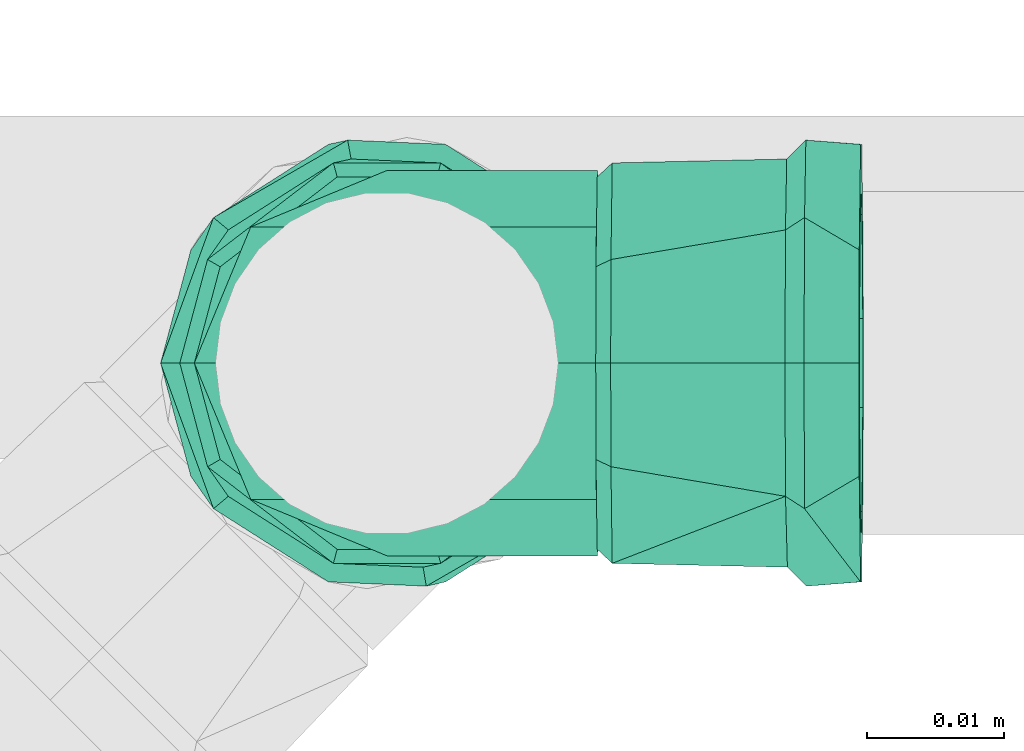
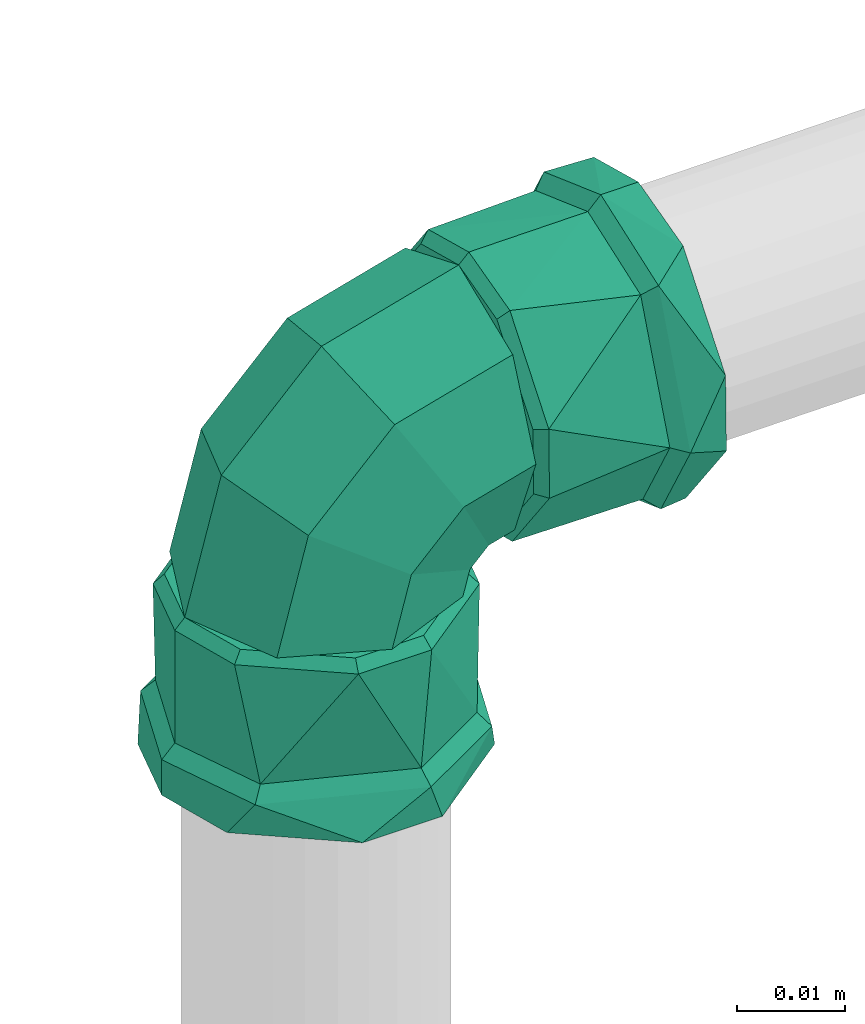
# One storey, part 350 of 589: 1 flow fitting.
"""IFC2X3 building model written with IfcOpenShell, lengths in millimetres."""

import ifcopenshell
import ifcopenshell.guid

model = None  # the IFC model being written
_history = None  # IfcOwnerHistory: only IFC2X3 demands one
_inside = {}  # id of a spatial element -> (the spatial element, [elements in it])
_under = {}  # id of a project, library or spatial element -> (it, [spatial elements below it])
_declared = {}  # id of a project -> (the project, [libraries it declares])
_typed = {}  # id of a type object -> (the type object, [elements of that type])
_made_of = {}  # id of a material, layer set ... -> (it, [elements and type objects made of it])


def new_model(schema):
    """Start an empty IFC model of exactly this schema.

    Asked for "IFC4X3", IfcOpenShell would pick the latest addendum, in which some entities
    have other attributes; the version numbers below select the first issue.
    IFC2X3 requires an IfcOwnerHistory on every rooted entity: one is made here for all.
    """
    global model, _history
    if schema == "IFC4X3":
        model = ifcopenshell.file(schema_version=(4, 3, 0, 0))
    else:
        model = ifcopenshell.file(schema=schema)
    _inside.clear()
    _under.clear()
    _declared.clear()
    _typed.clear()
    _made_of.clear()
    _history = None
    if model.schema == "IFC2X3":
        org = make("IfcOrganization", Name="unknown")
        user = make(
            "IfcPersonAndOrganization",
            ThePerson=make("IfcPerson", FamilyName="unknown"),
            TheOrganization=org,
        )
        app = make(
            "IfcApplication",
            ApplicationDeveloper=org,
            Version="unknown",
            ApplicationFullName="unknown",
            ApplicationIdentifier="unknown",
        )
        _history = make(
            "IfcOwnerHistory",
            OwningUser=user,
            OwningApplication=app,
            ChangeAction="ADDED",
            CreationDate=0,
        )
    return model


def make(cls, **values):
    """One entity of the class cls with the attributes given. An attribute that is None is left unset."""
    return model.create_entity(
        cls, **{name: value for name, value in values.items() if value is not None}
    )


def entity(cls, *values):
    """Any entity or typed value of the class cls, its attributes in the order of the schema. None: left unset."""
    e = model.create_entity(cls)
    for i, value in enumerate(values):
        if value is not None:
            e[i] = value
    return e


def rooted(cls, **values):
    """An entity with a GlobalId (a new one), such as an element, a storey or a relation."""
    return make(cls, GlobalId=ifcopenshell.guid.new(), OwnerHistory=_history, **values)


def si_unit(unit_type, name, prefix=None):
    """IfcSIUnit, for example si_unit("LENGTHUNIT", "METRE", prefix="MILLI")."""
    return make("IfcSIUnit", UnitType=unit_type, Prefix=prefix, Name=name)


def converted_unit(unit_type, name, factor, base, dimensions=None, offset=None):
    """IfcConversionBasedUnit, such as the inch: factor (a typed value) times the base unit."""
    return make(
        "IfcConversionBasedUnit"
        if offset is None
        else "IfcConversionBasedUnitWithOffset",
        ConversionOffset=offset,
        Dimensions=None
        if dimensions is None
        else entity("IfcDimensionalExponents", *dimensions),
        UnitType=unit_type,
        Name=name,
        ConversionFactor=make(
            "IfcMeasureWithUnit", ValueComponent=factor, UnitComponent=base
        ),
    )


def derived_unit(unit_type, elements):
    """IfcDerivedUnit: a product of units, each with its exponent."""
    return make(
        "IfcDerivedUnit",
        Elements=[
            make("IfcDerivedUnitElement", Unit=unit, Exponent=power)
            for unit, power in elements
        ],
        UnitType=unit_type,
    )


def assignment(units):
    """IfcUnitAssignment: the units of a project."""
    return None if units is None else make("IfcUnitAssignment", Units=units)


def point(xyz):
    """IfcCartesianPoint."""
    return None if xyz is None else make("IfcCartesianPoint", Coordinates=xyz)


def direction(xyz):
    """IfcDirection."""
    return None if xyz is None else make("IfcDirection", DirectionRatios=xyz)


def frame(location, z_axis=None, x_axis=None):
    """IfcAxis2Placement3D, a coordinate frame: its origin and axes. An axis left out is left unset."""
    return make(
        "IfcAxis2Placement3D",
        Location=point(location),
        Axis=direction(z_axis),
        RefDirection=direction(x_axis),
    )


def origin():
    """The frame at (0, 0, 0) with its axes left unset."""
    return frame((0.0, 0.0, 0.0))


def place(relative_to, where):
    """IfcLocalPlacement: puts the frame where relative to a parent placement (None: the world)."""
    return make(
        "IfcLocalPlacement", PlacementRelTo=relative_to, RelativePlacement=where
    )


def context(
    kind, dimensions, precision=None, world=None, true_north=None, identifier=None
):
    """IfcGeometricRepresentationContext, for example the 3D "Model" context."""
    return make(
        "IfcGeometricRepresentationContext",
        ContextIdentifier=identifier,
        ContextType=kind,
        CoordinateSpaceDimension=dimensions,
        Precision=precision,
        WorldCoordinateSystem=world,
        TrueNorth=true_north,
    )


def subcontext(parent, identifier, kind, view, scale=None):
    """IfcGeometricRepresentationSubContext, for example "Body" below "Model"."""
    return make(
        "IfcGeometricRepresentationSubContext",
        ContextIdentifier=identifier,
        ContextType=kind,
        ParentContext=parent,
        TargetScale=scale,
        TargetView=view,
    )


def project(units=None, contexts=None):
    """IfcProject with its units and contexts."""
    return rooted(
        "IfcProject",
        Name="project",
        RepresentationContexts=contexts,
        UnitsInContext=assignment(units),
    )


def spatial(cls, under=None, at=None, **own):
    """A site, building, storey or space (cls), placed at a placement, below another one or the project."""
    s = rooted(cls, ObjectPlacement=at, **own)
    if under is not None:
        _under.setdefault(under.id(), (under, []))[1].append(s)
    return s


def faces_of(points, faces, orient=None, outer=None):
    """IfcFace entities. A face is a list of loops; a loop is a list of indices into points, from 0.

    orient and outer hold one flag for each loop. By default every Orientation is true, the
    first loop of a face is its IfcFaceOuterBound and the others are IfcFaceBound.
    """
    made = []
    for i, loops in enumerate(faces):
        bounds = []
        for j, loop in enumerate(loops):
            is_outer = j == 0 if outer is None else outer[i][j]
            bounds.append(
                make(
                    "IfcFaceOuterBound" if is_outer else "IfcFaceBound",
                    Bound=make("IfcPolyLoop", Polygon=[points[k] for k in loop]),
                    Orientation=True if orient is None else orient[i][j],
                )
            )
        made.append(make("IfcFace", Bounds=bounds))
    return made


def faceted_brep(points, faces, orient=None, outer=None, voids=None):
    """IfcFacetedBrep: a solid bounded by flat faces; with voids (closed shells), ...WithVoids."""
    shared = [point(p) for p in points]
    hull = make("IfcClosedShell", CfsFaces=faces_of(shared, faces, orient, outer))
    if voids is None:
        return make("IfcFacetedBrep", Outer=hull)
    return make(
        "IfcFacetedBrepWithVoids",
        Outer=hull,
        Voids=[
            make(cls, CfsFaces=faces_of(shared, fs, o, b)) for cls, fs, o, b in voids
        ],
    )


def shape(context_of_items, identifier, shape_type, items):
    """IfcShapeRepresentation: the items that make up one representation, for example the "Body"."""
    return make(
        "IfcShapeRepresentation",
        ContextOfItems=context_of_items,
        RepresentationIdentifier=identifier,
        RepresentationType=shape_type,
        Items=items,
    )


def source(mapping_origin, context_of_items, identifier, shape_type, items):
    """IfcRepresentationMap: a shape defined once, which mapped items show again and again."""
    return make(
        "IfcRepresentationMap",
        MappingOrigin=mapping_origin,
        MappedRepresentation=shape(context_of_items, identifier, shape_type, items),
    )


def transform(
    local_origin,
    x_axis=None,
    y_axis=None,
    z_axis=None,
    scale=None,
    scale2=None,
    scale3=None,
    uniform=True,
):
    """IfcCartesianTransformationOperator3D, or its non-uniform kind. x_axis, y_axis, z_axis: its Axis1, 2, 3."""
    if uniform:
        return make(
            "IfcCartesianTransformationOperator3D",
            Axis1=direction(x_axis),
            Axis2=direction(y_axis),
            LocalOrigin=point(local_origin),
            Scale=scale,
            Axis3=direction(z_axis),
        )
    return make(
        "IfcCartesianTransformationOperator3DnonUniform",
        Axis1=direction(x_axis),
        Axis2=direction(y_axis),
        LocalOrigin=point(local_origin),
        Scale=scale,
        Axis3=direction(z_axis),
        Scale2=scale2,
        Scale3=scale3,
    )


def mapped(mapping_source, mapping_target):
    """IfcMappedItem: shows the shape of a source again, moved by a transform."""
    return make(
        "IfcMappedItem", MappingSource=mapping_source, MappingTarget=mapping_target
    )


def material(Name=None, Category=None):
    """IfcMaterial."""
    return make("IfcMaterial", Name=Name, Category=Category)


def made_of(thing, what):
    """Note that an element or type object is made of a material, layer set ...; save() writes the relation."""
    if what is not None:
        _made_of.setdefault(what.id(), (what, []))[1].append(thing)
    return thing


def type_object(cls, material=None, **own):
    """A type object (cls), such as IfcWallType, which elements share."""
    return made_of(rooted(cls, **own), material)


def type_shapes(of_type, sources):
    """Give a type object the sources (RepresentationMaps) that its elements show as mapped items."""
    of_type.RepresentationMaps = sources


def element(
    cls,
    number,
    at=None,
    inside=None,
    cuts=None,
    type_object=None,
    material=None,
    context=None,
    identifier="Body",
    shape_type=None,
    held_by="IfcProductDefinitionShape",
    body=None,
    shapes=None,
    **own,
):
    """One element of the class cls, such as IfcWall. Its Tag is "e" and its number.

    at: its placement. inside: the storey or other place that contains it. cuts: it is an
    opening in that element (IfcRelVoidsElement). A single representation is given by context,
    identifier, shape_type and body (its items); several are given by shapes. held_by: the class
    of the entity that holds the representations. save() writes the other relations.
    """
    e = rooted(cls, Tag="e%d" % number, ObjectPlacement=at, **own)
    if body is not None:
        shapes = [shape(context, identifier, shape_type, body)]
    if shapes is not None:
        e.Representation = make(held_by, Representations=shapes)
    if inside is not None:
        _inside.setdefault(inside.id(), (inside, []))[1].append(e)
    if cuts is not None:
        rooted(
            "IfcRelVoidsElement", RelatingBuildingElement=cuts, RelatedOpeningElement=e
        )
    if type_object is not None:
        _typed.setdefault(type_object.id(), (type_object, []))[1].append(e)
    return made_of(e, material)


def aggregate(whole, parts):
    """IfcRelAggregates: a whole, such as a stair, and the parts it consists of."""
    return rooted("IfcRelAggregates", RelatingObject=whole, RelatedObjects=parts)


def save(model, path):
    """Write the relations noted so far, then the file.

    IfcRelAggregates (storeys below a building ...), IfcRelContainedInSpatialStructure (elements
    in a storey), IfcRelDefinesByType, IfcRelAssociatesMaterial and IfcRelDeclares: one each for
    every whole, place, type object, material and project.
    """
    for whole, parts in _under.values():
        aggregate(whole, parts)
    for where, things in _inside.values():
        rooted(
            "IfcRelContainedInSpatialStructure",
            RelatedElements=things,
            RelatingStructure=where,
        )
    for kind, things in _typed.values():
        rooted("IfcRelDefinesByType", RelatedObjects=things, RelatingType=kind)
    for what, things in _made_of.values():
        rooted("IfcRelAssociatesMaterial", RelatedObjects=things, RelatingMaterial=what)
    for by, libraries in _declared.values():
        rooted("IfcRelDeclares", RelatingContext=by, RelatedDefinitions=libraries)
    model.write(path)


model = new_model("IFC2X3")

# Units and contexts
model_context = context("Model", 3, precision=0.01, world=origin(), true_north=direction((6.123031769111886e-17, 1.0)))
body_context = subcontext(model_context, "Body", "Model", "MODEL_VIEW")
ifc_project = project(units=[si_unit("LENGTHUNIT", "METRE", prefix="MILLI"), si_unit("AREAUNIT", "SQUARE_METRE"), si_unit("VOLUMEUNIT", "CUBIC_METRE"), converted_unit("PLANEANGLEUNIT", "DEGREE", entity("IfcRatioMeasure", 0.017453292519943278), si_unit("PLANEANGLEUNIT", "RADIAN"), dimensions=[0, 0, 0, 0, 0, 0, 0]), si_unit("MASSUNIT", "GRAM", prefix="KILO"), derived_unit("MASSDENSITYUNIT", [(si_unit("MASSUNIT", "GRAM", prefix="KILO"), 1), (si_unit("LENGTHUNIT", "METRE"), -3)]), derived_unit("IONCONCENTRATIONUNIT", [(si_unit("MASSUNIT", "GRAM", prefix="KILO"), 1), (si_unit("LENGTHUNIT", "METRE"), -3)]), derived_unit("MOMENTOFINERTIAUNIT", [(si_unit("LENGTHUNIT", "METRE"), 4)]), si_unit("TIMEUNIT", "SECOND"), si_unit("FREQUENCYUNIT", "HERTZ"), si_unit("THERMODYNAMICTEMPERATUREUNIT", "DEGREE_CELSIUS"), derived_unit("THERMALTRANSMITTANCEUNIT", [(si_unit("MASSUNIT", "GRAM", prefix="KILO"), 1), (si_unit("THERMODYNAMICTEMPERATUREUNIT", "KELVIN"), -1), (si_unit("TIMEUNIT", "SECOND"), -3)]), derived_unit("THERMALCONDUCTANCEUNIT", [(si_unit("MASSUNIT", "GRAM", prefix="KILO"), 1), (si_unit("THERMODYNAMICTEMPERATUREUNIT", "KELVIN"), -1), (si_unit("TIMEUNIT", "SECOND"), -3), (si_unit("LENGTHUNIT", "METRE"), 1)]), derived_unit("VOLUMETRICFLOWRATEUNIT", [(si_unit("LENGTHUNIT", "METRE"), 3), (si_unit("TIMEUNIT", "SECOND"), -1)]), derived_unit("MASSFLOWRATEUNIT", [(si_unit("MASSUNIT", "GRAM", prefix="KILO"), 1), (si_unit("TIMEUNIT", "SECOND"), -1)]), derived_unit("ROTATIONALFREQUENCYUNIT", [(si_unit("TIMEUNIT", "SECOND"), -1)]), si_unit("ELECTRICCURRENTUNIT", "AMPERE"), si_unit("ELECTRICVOLTAGEUNIT", "VOLT"), si_unit("POWERUNIT", "WATT"), si_unit("FORCEUNIT", "NEWTON", prefix="KILO"), si_unit("ILLUMINANCEUNIT", "LUX"), si_unit("LUMINOUSFLUXUNIT", "LUMEN"), si_unit("LUMINOUSINTENSITYUNIT", "CANDELA"), derived_unit("USERDEFINED", [(si_unit("MASSUNIT", "GRAM", prefix="KILO"), -1), (si_unit("LENGTHUNIT", "METRE"), -2), (si_unit("TIMEUNIT", "SECOND"), 3), (si_unit("LUMINOUSFLUXUNIT", "LUMEN"), 1)]), derived_unit("USERDEFINED", [(si_unit("MASSUNIT", "GRAM", prefix="KILO"), 1), (si_unit("TIMEUNIT", "SECOND"), -3), (si_unit("LENGTHUNIT", "METRE"), 3), (si_unit("ELECTRICCURRENTUNIT", "AMPERE"), -2)]), derived_unit("SOUNDPOWERUNIT", [(si_unit("MASSUNIT", "GRAM", prefix="KILO"), 1), (si_unit("TIMEUNIT", "SECOND"), -3), (si_unit("LENGTHUNIT", "METRE"), 2)]), derived_unit("SOUNDPRESSUREUNIT", [(si_unit("MASSUNIT", "GRAM", prefix="KILO"), 1), (si_unit("LENGTHUNIT", "METRE"), -1), (si_unit("TIMEUNIT", "SECOND"), -2)]), derived_unit("LINEARVELOCITYUNIT", [(si_unit("LENGTHUNIT", "METRE"), 1), (si_unit("TIMEUNIT", "SECOND"), -1)]), si_unit("PRESSUREUNIT", "PASCAL"), derived_unit("USERDEFINED", [(si_unit("MASSUNIT", "GRAM", prefix="KILO"), 1), (si_unit("LENGTHUNIT", "METRE"), -2), (si_unit("TIMEUNIT", "SECOND"), -2)]), derived_unit("LINEARFORCEUNIT", [(si_unit("MASSUNIT", "GRAM", prefix="KILO"), 1), (si_unit("TIMEUNIT", "SECOND"), -2)]), derived_unit("PLANARFORCEUNIT", [(si_unit("MASSUNIT", "GRAM", prefix="KILO"), 1), (si_unit("LENGTHUNIT", "METRE"), -1), (si_unit("TIMEUNIT", "SECOND"), -2)]), derived_unit("SPECIFICHEATCAPACITYUNIT", [(si_unit("THERMODYNAMICTEMPERATUREUNIT", "KELVIN"), -1), (si_unit("LENGTHUNIT", "METRE"), 2), (si_unit("TIMEUNIT", "SECOND"), -2)]), derived_unit("HEATINGVALUEUNIT", [(si_unit("LENGTHUNIT", "METRE"), 2), (si_unit("TIMEUNIT", "SECOND"), -2)]), derived_unit("VAPORPERMEABILITYUNIT", [(si_unit("LENGTHUNIT", "METRE"), -1), (si_unit("TIMEUNIT", "SECOND"), 1)]), derived_unit("DYNAMICVISCOSITYUNIT", [(si_unit("MASSUNIT", "GRAM", prefix="KILO"), 1), (si_unit("TIMEUNIT", "SECOND"), -1), (si_unit("LENGTHUNIT", "METRE"), -1)]), derived_unit("THERMALEXPANSIONCOEFFICIENTUNIT", [(si_unit("THERMODYNAMICTEMPERATUREUNIT", "KELVIN"), -1)]), derived_unit("MODULUSOFELASTICITYUNIT", [(si_unit("MASSUNIT", "GRAM", prefix="KILO"), 1), (si_unit("LENGTHUNIT", "METRE"), -1), (si_unit("TIMEUNIT", "SECOND"), -2)]), derived_unit("ISOTHERMALMOISTURECAPACITYUNIT", [(si_unit("LENGTHUNIT", "METRE"), 3), (si_unit("MASSUNIT", "GRAM", prefix="KILO"), -1)]), derived_unit("MOISTUREDIFFUSIVITYUNIT", [(si_unit("TIMEUNIT", "SECOND"), -1), (si_unit("LENGTHUNIT", "METRE"), 2)])], contexts=[model_context])

# Site, building, storey
site_placement = place(None, origin())
site = spatial("IfcSite", under=ifc_project, at=site_placement, Name="Default", CompositionType="ELEMENT")
building_placement = place(site_placement, origin())
building = spatial("IfcBuilding", under=site, at=building_placement, CompositionType="ELEMENT")
storey_placement = place(building_placement, frame((0.0, 0.0, 100.0)))
storey = spatial("IfcBuildingStorey", under=building, at=storey_placement, Name="TÉRREO", CompositionType="ELEMENT", Elevation=100.0)

# Flow fitting
ifc_material = material(Name="PVC Marrom")
pipe_fitting_type = type_object("IfcPipeFittingType", Name="PVC Marrom Soldável_Joelho 45°_90°_Rodrigo MEP:Joelho", PredefinedType="NOTDEFINED", material=ifc_material)
shared_shape = source(origin(), body_context, "Body", "Brep", [
    faceted_brep([(4.072421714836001, -16.405873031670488, 14.585479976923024), (-3.7435226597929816, -16.48403247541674, 14.585479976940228), (-12.911880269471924, -16.57571605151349, 7.549999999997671), (-14.934795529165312, -16.59594520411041, 0.0), (-12.91188026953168, -16.575716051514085, -7.550000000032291), (-3.7435226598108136, -16.48403247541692, -14.585479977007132), (4.07242171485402, -16.405873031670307, -14.585479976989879), (13.240779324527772, -16.314189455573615, -7.55000000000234), (15.263694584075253, -16.29396030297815, 0.0), (13.240779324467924, -16.314189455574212, 7.549999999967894), (3.7870877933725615, -15.308671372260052, 13.561598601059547), (12.31183884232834, -15.223423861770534, 7.019999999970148), (14.192748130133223, -15.204614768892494, 0.0), (12.311838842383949, -15.223423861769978, -7.02000000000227), (3.7870877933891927, -15.308671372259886, -13.561598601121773), (-3.480187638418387, -15.381344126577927, -13.561598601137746), (-12.004938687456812, -15.466591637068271, -7.020000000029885), (-13.885847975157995, -15.485400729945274, 0.0), (-12.004938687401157, -15.466591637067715, 7.0199999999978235), (-3.4801876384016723, -15.38134412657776, 13.561598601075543)], [[[0, 1, 2, 3, 4, 5, 6, 7, 8, 9]], [[10, 11, 12, 13, 14, 15, 16, 17, 18, 19]], [[13, 12, 8, 7]], [[14, 13, 7, 6]], [[6, 5, 15, 14]], [[16, 15, 5, 4]], [[17, 16, 4, 3]], [[18, 17, 3, 2]], [[19, 18, 2, 1]], [[1, 0, 10, 19]], [[11, 10, 0, 9]], [[12, 11, 9, 8]]]),
    faceted_brep([(-16.445774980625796, -3.908167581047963, 14.585479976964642), (-16.445774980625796, 3.908167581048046, 14.585479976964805), (-16.445774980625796, 13.076983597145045, 7.550000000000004), (-16.445774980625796, 15.100000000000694, 0.0), (-16.445774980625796, 13.0769835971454, -7.550000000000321), (-16.445774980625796, 3.9081675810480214, -14.585479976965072), (-16.445774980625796, -3.9081675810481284, -14.58547997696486), (-16.445774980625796, -13.076983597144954, -7.54999999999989), (-16.445774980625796, -15.099999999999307, 0.0), (-16.445774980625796, -13.076983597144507, 7.549999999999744), (-15.345774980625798, 3.633819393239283, 13.56159860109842), (-15.345774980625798, -3.6338193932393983, 13.561598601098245), (-15.345774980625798, -12.158996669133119, 7.019999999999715), (-15.345774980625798, -14.040000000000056, 0.0), (-15.345774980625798, -12.158996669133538, -7.019999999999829), (-15.345774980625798, -3.6338193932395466, -13.56159860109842), (-15.345774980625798, 3.63381939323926, -13.561598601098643), (-15.345774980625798, 12.158996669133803, -7.020000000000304), (-15.345774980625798, 14.039999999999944, 0.0), (-15.345774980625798, 12.15899666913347, 7.020000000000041)], [[[0, 1, 2, 3, 4, 5, 6, 7, 8, 9]], [[10, 11, 12, 13, 14, 15, 16, 17, 18, 19]], [[14, 13, 8, 7]], [[15, 14, 7, 6]], [[6, 5, 16, 15]], [[17, 16, 5, 4]], [[18, 17, 4, 3]], [[19, 18, 3, 2]], [[10, 19, 2, 1]], [[1, 0, 11, 10]], [[12, 11, 0, 9]], [[13, 12, 9, 8]]]),
    faceted_brep([(-34.545774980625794, 0.0, -12.5), (-34.545774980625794, 6.250000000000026, -10.825317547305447), (-34.545774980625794, 4.2705142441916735, -15.937776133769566), (-34.545774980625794, -4.270514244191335, -15.937776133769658), (-34.545774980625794, -6.250000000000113, -10.82531754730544), (-34.545774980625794, 14.289419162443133, -8.25000000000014), (-34.545774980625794, 12.074072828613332, -3.23523806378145), (-34.545774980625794, 16.5, 0.0), (-34.545774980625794, 12.074072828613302, 3.2352380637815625), (-34.545774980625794, 14.289419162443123, 8.249999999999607), (-34.545774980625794, 6.249999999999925, 10.825317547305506), (-34.545774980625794, 4.27051424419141, 15.937776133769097), (-34.545774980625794, 0.0, 12.5), (-34.545774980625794, -4.270514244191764, 15.937776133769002), (-34.545774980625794, -6.249999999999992, 10.825317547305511), (-34.545774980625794, -14.28941916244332, 8.249999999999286), (-34.545774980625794, -12.074072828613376, 3.2352380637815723), (-34.545774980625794, -16.5, 0.0), (-34.545774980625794, -12.074072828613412, -3.235238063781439), (-34.545774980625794, -14.289419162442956, -8.250000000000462), (-30.545774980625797, -16.5, 0.0), (-30.545774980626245, -12.639142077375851, 10.606700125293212), (-30.545774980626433, -4.885841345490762, 13.427814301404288), (-30.54577498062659, 2.8674593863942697, 16.24892847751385), (-30.545774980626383, 12.64180232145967, 10.603529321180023), (-30.545774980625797, 16.499999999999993, 0.0), (-30.545774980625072, 12.641802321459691, -10.603529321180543), (-30.545774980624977, 4.889209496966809, -13.426588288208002), (-30.54577498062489, -2.8633833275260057, -16.249647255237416), (-30.545774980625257, -12.639142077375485, -10.606700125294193), (-29.145774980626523, 11.56916454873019, 9.703835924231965), (-29.145774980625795, 15.099999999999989, 0.0), (-29.145774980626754, 2.624159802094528, 14.870231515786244), (-29.145774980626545, -4.471285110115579, 12.288484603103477), (-29.14577498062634, -11.566730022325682, 9.706737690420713), (-29.145774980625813, -15.099999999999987, 0.0), (-29.14577498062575, -11.566730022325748, -9.706737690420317), (-29.145774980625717, -2.620429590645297, -14.87088930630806), (-29.14577498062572, 4.4743674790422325, -12.287362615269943), (-29.145774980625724, 11.569164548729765, -9.703835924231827), (-16.445774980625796, 3.908167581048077, -14.585479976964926), (-16.445774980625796, 6.250000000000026, -10.825317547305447), (-16.445774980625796, 0.0, -12.5), (-16.445774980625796, 13.076983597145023, -7.549999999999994), (-16.445774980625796, -3.9081675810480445, -14.585479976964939), (-16.445774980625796, 12.074072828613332, -3.23523806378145), (-16.445774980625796, 15.099999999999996, 0.0), (-16.445774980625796, 12.074072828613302, 3.2352380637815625), (-16.445774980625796, 13.076983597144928, 7.550000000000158), (-16.445774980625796, 6.249999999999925, 10.825317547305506), (-16.445774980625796, 3.9081675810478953, 14.585479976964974), (-16.445774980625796, 0.0, 12.5), (-16.445774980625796, -3.9081675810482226, 14.58547997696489), (-16.445774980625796, -6.249999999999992, 10.825317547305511), (-16.445774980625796, -13.076983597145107, 7.549999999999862), (-16.445774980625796, -12.074072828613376, 3.2352380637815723), (-16.445774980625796, -15.100000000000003, 0.0), (-16.445774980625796, -12.074072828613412, -3.235238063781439), (-16.445774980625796, -13.076983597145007, -7.550000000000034), (-16.445774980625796, -6.250000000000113, -10.82531754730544)], [[[0, 1, 2]], [[2, 3, 0]], [[4, 0, 3]], [[5, 2, 1]], [[1, 6, 5]], [[6, 7, 5]], [[8, 7, 6]], [[7, 8, 9]], [[10, 9, 8]], [[9, 10, 11]], [[12, 11, 10]], [[13, 11, 12]], [[12, 14, 13]], [[13, 14, 15]], [[16, 15, 14]], [[15, 16, 17]], [[16, 18, 17]], [[19, 18, 4]], [[17, 18, 19]], [[3, 19, 4]], [[20, 15, 17]], [[20, 21, 15]], [[13, 15, 21]], [[13, 21, 22, 23]], [[9, 11, 24]], [[7, 9, 25]], [[23, 24, 11]], [[25, 9, 24]], [[13, 23, 11]], [[25, 5, 7]], [[25, 26, 5]], [[2, 5, 26]], [[2, 26, 27, 28]], [[19, 3, 29]], [[17, 19, 20]], [[28, 29, 3]], [[20, 19, 29]], [[2, 28, 3]], [[24, 30, 31, 25]], [[30, 24, 23, 32]], [[33, 32, 23, 22, 21, 34]], [[20, 35, 34, 21]], [[29, 36, 35, 20]], [[36, 29, 28, 37]], [[38, 37, 28, 27, 26, 39]], [[25, 31, 39, 26]], [[40, 41, 42]], [[41, 40, 43]], [[42, 44, 40]], [[43, 45, 41]], [[43, 46, 45]], [[45, 46, 47]], [[48, 47, 46]], [[47, 48, 49]], [[50, 49, 48]], [[49, 50, 51]], [[51, 50, 52]], [[52, 53, 51]], [[54, 53, 52]], [[53, 54, 55]], [[56, 55, 54]], [[56, 57, 55]], [[58, 57, 56]], [[59, 57, 58]], [[59, 58, 44]], [[44, 42, 59]], [[54, 34, 35]], [[56, 54, 35]], [[52, 34, 54]], [[52, 32, 33, 34]], [[30, 32, 50]], [[31, 30, 48]], [[50, 48, 30]], [[46, 31, 48]], [[52, 50, 32]], [[43, 39, 31]], [[46, 43, 31]], [[40, 39, 43]], [[40, 37, 38, 39]], [[36, 37, 44]], [[35, 36, 58]], [[44, 58, 36]], [[56, 35, 58]], [[40, 44, 37]], [[49, 51, 12, 10]], [[47, 49, 10, 8]], [[8, 6, 45, 47]], [[41, 45, 6, 1]], [[42, 41, 1, 0]], [[59, 42, 0, 4]], [[57, 59, 4, 18]], [[18, 16, 55, 57]], [[53, 55, 16, 14]], [[51, 53, 14, 12]]]),
    faceted_brep([(10.13758433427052, -0.5597858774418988, 0.0), (6.590082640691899, -2.6395915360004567, 9.92777920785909), (10.080732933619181, -15.245734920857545, 9.92777920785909), (14.192748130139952, -15.20461476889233, 0.0), (-1.9743440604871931, -7.660686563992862, 14.04), (0.15345007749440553, -15.34500774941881, 14.04), (-10.538770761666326, -12.681781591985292, 9.927779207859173), (-9.77383277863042, -15.444280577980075, 9.927779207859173), (-14.086272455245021, -14.761587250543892, 0.0), (-13.885847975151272, -15.48540072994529, 0.0), (-10.538770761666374, -12.681781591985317, -9.92777920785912), (-9.77383277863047, -15.444280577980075, -9.92777920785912), (-1.974344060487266, -7.660686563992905, -14.04), (0.15345007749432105, -15.34500774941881, -14.04), (6.590082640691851, -2.6395915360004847, -9.927779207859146), (10.080732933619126, -15.245734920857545, -9.927779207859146), (-0.6611286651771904, 10.131479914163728, 0.0), (-2.7053570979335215, 6.563358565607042, 9.92777920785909), (-7.640561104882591, -2.050848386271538, 14.04), (-12.575765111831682, -10.665055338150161, 9.927779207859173), (-14.619993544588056, -14.233176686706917, 0.0), (-12.57576511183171, -10.665055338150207, -9.92777920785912), (-7.640561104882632, -2.050848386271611, -14.04), (-2.705357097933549, 6.563358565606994, -9.927779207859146), (-15.345774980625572, 14.03999999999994, 0.0), (-15.3457749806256, 9.927779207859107, 9.92777920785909), (-15.345774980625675, 0.0, 14.04), (-15.345774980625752, -9.927779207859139, 9.927779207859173), (-15.345774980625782, -14.040000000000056, 0.0), (-15.345774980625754, -9.927779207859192, -9.92777920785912), (-15.345774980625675, 0.0, -14.04), (-15.3457749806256, 9.92777920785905, -9.927779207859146)], [[[0, 1, 2, 3]], [[1, 4, 5, 2]], [[4, 6, 7, 5]], [[6, 8, 9, 7]], [[8, 10, 11, 9]], [[10, 12, 13, 11]], [[12, 14, 15, 13]], [[14, 0, 3, 15]], [[16, 17, 1, 0]], [[17, 18, 4, 1]], [[18, 19, 6, 4]], [[19, 20, 8, 6]], [[20, 21, 10, 8]], [[21, 22, 12, 10]], [[22, 23, 14, 12]], [[23, 16, 0, 14]], [[24, 25, 17, 16]], [[25, 26, 18, 17]], [[26, 27, 19, 18]], [[27, 28, 20, 19]], [[28, 29, 21, 20]], [[29, 30, 22, 21]], [[30, 31, 23, 22]], [[31, 24, 16, 23]], [[3, 2, 5, 7, 9, 11, 13, 15]], [[31, 30, 29, 28, 27, 26, 25, 24]]]),
    faceted_brep([(-3.743522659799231, -16.484032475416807, -14.585479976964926), (-6.085237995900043, -16.507449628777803, -10.825317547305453), (0.16444952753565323, -16.444952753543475, -12.5), (-12.911880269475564, -16.575716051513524, -7.5499999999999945), (4.072421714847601, -16.40587303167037, -14.585479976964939), (-11.90901964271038, -16.565687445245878, -3.235238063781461), (-14.934795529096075, -16.595945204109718, 0.0), (-11.90901964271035, -16.565687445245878, 3.2352380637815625), (-12.911880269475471, -16.575716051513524, 7.550000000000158), (-6.08523799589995, -16.507449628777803, 10.825317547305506), (-3.7435226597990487, -16.484032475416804, 14.585479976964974), (0.16444952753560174, -16.444952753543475, 12.5), (4.0724217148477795, -16.40587303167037, 14.58547997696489), (6.414137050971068, -16.38245587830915, 10.825317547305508), (13.240779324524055, -16.31418945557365, 7.549999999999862), (12.23791869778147, -16.324218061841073, 3.2352380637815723), (15.263694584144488, -16.293960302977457, 0.0), (12.23791869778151, -16.324218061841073, -3.235238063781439), (13.240779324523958, -16.31418945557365, -7.550000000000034), (6.414137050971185, -16.38245587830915, -10.82531754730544), (11.85759490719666, -29.02865628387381, 9.706737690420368), (15.39068823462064, -28.99332535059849, 0.0), (2.911741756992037, -29.11811481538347, 14.870889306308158), (-11.27714295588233, -29.260003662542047, 9.703835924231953), (-4.182700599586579, -29.189059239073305, 12.287362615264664), (-14.807801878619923, -29.29531025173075, 0.0), (-11.27714295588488, -29.26000366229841, -9.703835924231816), (-2.332585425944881, -29.170558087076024, -14.870231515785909), (11.857594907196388, -29.028656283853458, -9.706737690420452), (4.76250474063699, -29.099607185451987, -12.28848460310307), (3.1727585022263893, -30.515574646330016, 16.248928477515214), (-4.580154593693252, -30.59310377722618, 13.427814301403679), (-16.193732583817, -30.709239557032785, 0.0), (-12.333067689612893, -30.670632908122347, 10.606700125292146), (12.946612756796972, -30.41783610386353, 10.603529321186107), (16.80461753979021, -30.37925605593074, 0.0), (12.946612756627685, -30.41783610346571, -10.603529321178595), (5.194407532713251, -30.495358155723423, -13.426588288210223), (-2.557797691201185, -30.572880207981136, -16.249647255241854), (-12.333067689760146, -30.670632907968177, -10.606700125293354), (0.34544047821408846, -34.54404782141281, -12.5), (-5.904247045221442, -34.606544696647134, -10.825317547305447), (-3.9248602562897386, -34.58675082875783, -15.937776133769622), (4.61574121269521, -34.50134481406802, -15.937776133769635), (6.595128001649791, -34.48155094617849, -10.82531754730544), (-13.94326426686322, -34.68693486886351, -8.24999999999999), (-11.72802869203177, -34.664782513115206, -3.23523806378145), (-16.153734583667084, -34.709039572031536, 0.0), (-11.72802869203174, -34.664782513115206, 3.2352380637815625), (-13.943264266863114, -34.68693486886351, 8.250000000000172), (-5.904247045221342, -34.606544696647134, 10.825317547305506), (-3.92486025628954, -34.58675082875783, 15.937776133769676), (0.34544047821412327, -34.54404782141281, 12.5), (4.615741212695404, -34.50134481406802, 15.937776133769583), (6.5951280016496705, -34.48155094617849, 10.825317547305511), (14.63414522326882, -34.40116077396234, 8.24999999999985), (12.418909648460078, -34.423313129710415, 3.2352380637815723), (16.844615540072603, -34.37905607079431, 0.0), (12.418909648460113, -34.423313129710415, -3.235238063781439), (14.634145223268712, -34.40116077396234, -8.250000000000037)], [[[0, 1, 2]], [[1, 0, 3]], [[2, 4, 0]], [[3, 5, 1]], [[3, 6, 5]], [[5, 6, 7]], [[8, 7, 6]], [[7, 8, 9]], [[10, 9, 8]], [[9, 10, 11]], [[11, 10, 12]], [[12, 13, 11]], [[14, 13, 12]], [[13, 14, 15]], [[16, 15, 14]], [[16, 17, 15]], [[18, 17, 16]], [[19, 17, 18]], [[19, 18, 4]], [[4, 2, 19]], [[14, 20, 21]], [[16, 14, 21]], [[12, 20, 14]], [[12, 22, 20]], [[10, 23, 24, 22]], [[25, 23, 8]], [[10, 8, 23]], [[6, 25, 8]], [[12, 10, 22]], [[3, 26, 25]], [[6, 3, 25]], [[0, 26, 3]], [[0, 27, 26]], [[4, 28, 29, 27]], [[21, 28, 18]], [[4, 18, 28]], [[16, 21, 18]], [[0, 4, 27]], [[30, 22, 31]], [[32, 23, 25]], [[33, 23, 32]], [[31, 24, 33]], [[34, 21, 20]], [[24, 23, 33]], [[20, 30, 34]], [[21, 34, 35]], [[24, 31, 22]], [[22, 30, 20]], [[36, 28, 21]], [[21, 35, 36]], [[36, 37, 28]], [[37, 29, 28]], [[37, 38, 29]], [[32, 25, 26]], [[27, 39, 26]], [[32, 26, 39]], [[27, 29, 38]], [[38, 39, 27]], [[40, 41, 42]], [[42, 43, 40]], [[44, 40, 43]], [[45, 42, 41]], [[41, 46, 45]], [[46, 47, 45]], [[48, 47, 46]], [[47, 48, 49]], [[50, 49, 48]], [[49, 50, 51]], [[52, 51, 50]], [[53, 51, 52]], [[52, 54, 53]], [[53, 54, 55]], [[56, 55, 54]], [[55, 56, 57]], [[56, 58, 57]], [[59, 58, 44]], [[57, 58, 59]], [[43, 59, 44]], [[35, 55, 57]], [[35, 34, 55]], [[53, 55, 34]], [[30, 53, 34]], [[49, 51, 33]], [[47, 49, 32]], [[51, 30, 31, 33]], [[32, 49, 33]], [[53, 30, 51]], [[32, 45, 47]], [[32, 39, 45]], [[42, 45, 39]], [[38, 42, 39]], [[59, 43, 36]], [[57, 59, 35]], [[43, 38, 37, 36]], [[35, 59, 36]], [[42, 38, 43]], [[9, 11, 52, 50]], [[7, 9, 50, 48]], [[48, 46, 5, 7]], [[1, 5, 46, 41]], [[2, 1, 41, 40]], [[19, 2, 40, 44]], [[17, 19, 44, 58]], [[58, 56, 15, 17]], [[13, 15, 56, 54]], [[11, 13, 54, 52]]]),
])
type_shapes(pipe_fitting_type, [shared_shape])
flow_fitting_placement = place(storey_placement, frame((-6208.078427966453, -4327.625778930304, 2496.736173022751), z_axis=(0.0, 1.0, 0.0), x_axis=(-0.9999500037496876, 0.0, -0.009999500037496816)))
element("IfcFlowFitting", 1, at=flow_fitting_placement, inside=storey, type_object=pipe_fitting_type, material=ifc_material, Name="PVC Marrom Soldável_Joelho 45°_90°_Rodrigo MEP:Joelho", ObjectType="PVC Marrom Soldável_Joelho 45°_90°_Rodrigo MEP:Joelho", context=body_context, shape_type="MappedRepresentation", body=[
    mapped(shared_shape, transform((0.0, 0.0, 0.0), scale=1.0)),
])

save(model, "model.ifc")
